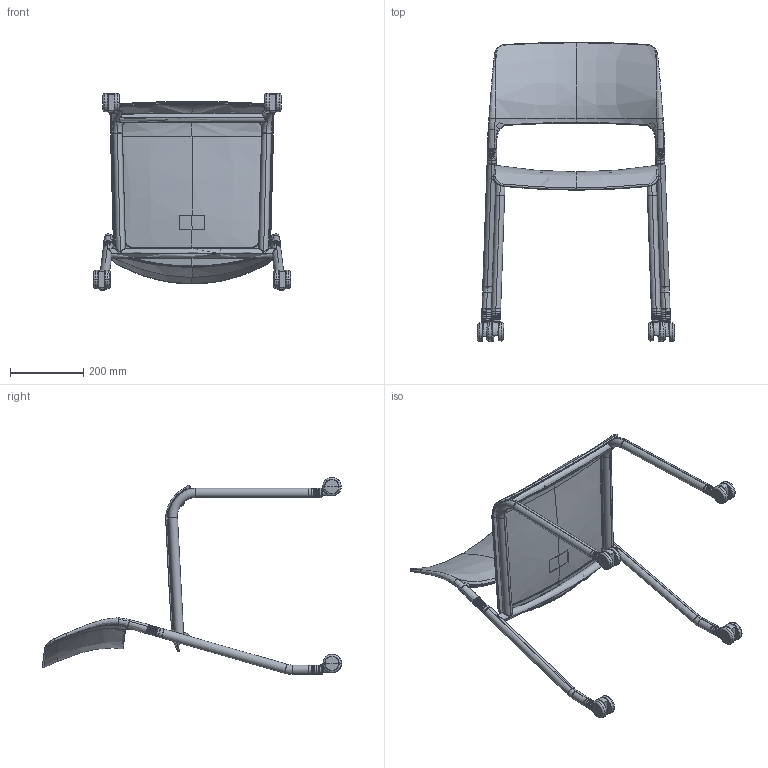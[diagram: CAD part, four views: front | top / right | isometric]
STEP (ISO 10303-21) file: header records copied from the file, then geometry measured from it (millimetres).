
FILE_DESCRIPTION((''),'2;1');
FILE_NAME('C5643_ASSEMBLY_ASM','2014-08-06T',('JUNG JAE GYU'),(''),'PRO/ENGINEER BY PARAMETRIC TECHNOLOGY CORPORATION, 2005290','PRO/ENGINEER BY PARAMETRIC TECHNOLOGY CORPORATION, 2005290','');
FILE_SCHEMA(('CONFIG_CONTROL_DESIGN'));
Length unit declared in the file: millimetre
Products named in the file (19): C56XX_SKEL; C56XX_FRAME_REAR_REINFORCE; C56XX_FRAME_FRONT_L; C56XX_FRAME_FRONT_R; C56XX_FRAME_FRONT_REINFORCE; C56XX_FRAME_REAR; C56XX_FRAME_ASSEMBLY_ASM; C56XX_BACK_SHELL; C56XX_BACK_INSERT_ROD; C56XX_BACK_SHELL_ASSEMBLY_ASM; PUSH_NUT_DOUBLE_HOLE_24X8; C56XX_BACK_ASSEMBLY_ASM; C56XX_SEAT_SHELL; C49XX_TREE_SNAP; FLAT_4X10_E; C56XX_SEAT_ASSEMBLY_ASM; T2XXX_CASTER_HOLDER; T50_F825; C5643_ASSEMBLY_ASM
Assembly tree (35 placements, depth 4):
  C5643_ASSEMBLY_ASM
    C56XX_SKEL
    C56XX_FRAME_ASSEMBLY_ASM
      C56XX_FRAME_REAR_REINFORCE
      C56XX_FRAME_FRONT_L
      C56XX_FRAME_FRONT_R
      C56XX_FRAME_FRONT_REINFORCE
      C56XX_FRAME_REAR  x2
    C56XX_BACK_ASSEMBLY_ASM
      C56XX_BACK_SHELL_ASSEMBLY_ASM
        C56XX_BACK_SHELL
        C56XX_BACK_INSERT_ROD  x2
      PUSH_NUT_DOUBLE_HOLE_24X8  x2
    C56XX_SEAT_ASSEMBLY_ASM
      C56XX_SEAT_SHELL
      C49XX_TREE_SNAP  x5
      FLAT_4X10_E  x5
    T2XXX_CASTER_HOLDER  x4
    T50_F825  x4
Bounding box: 539.66 x 818.25 x 538.72 mm (x, y, z)
Volume: 2426659 mm3; surface area: 1309575.6 mm2
Topology: 38 solids, 38 shells, 3084 faces, 8049 edges, 5134 vertices
Faces by surface type: plane 1251, cylinder 920, bspline 422, torus 242, cone 216, extrusion 17, sphere 16
Entity records: 74829 total; most frequent: CARTESIAN_POINT 41355, ORIENTED_EDGE 7528, DIRECTION 6082, EDGE_CURVE 3764, VERTEX_POINT 2381, AXIS2_PLACEMENT_3D 2339, EDGE_LOOP 1523, FACE_OUTER_BOUND 1450
